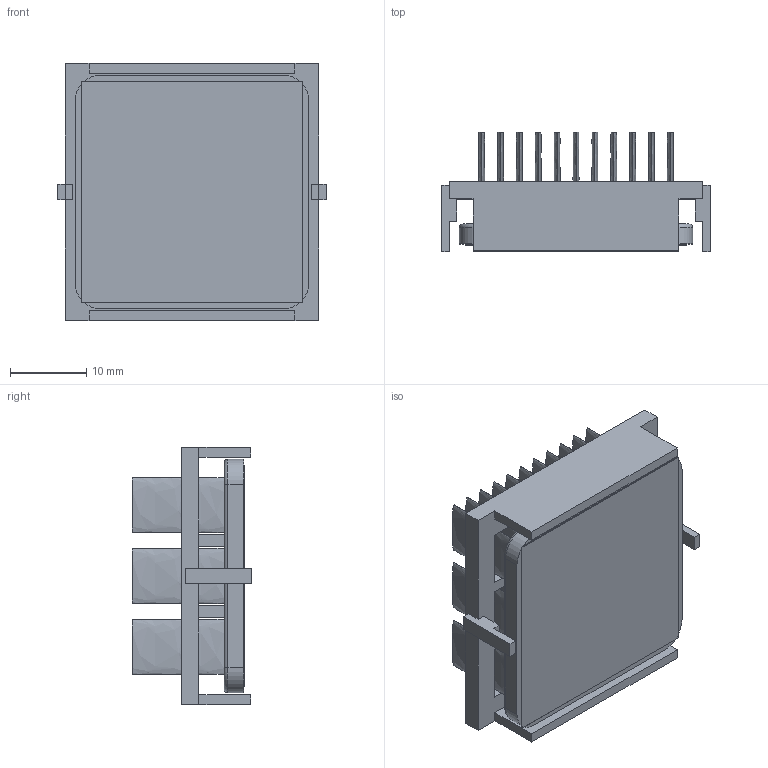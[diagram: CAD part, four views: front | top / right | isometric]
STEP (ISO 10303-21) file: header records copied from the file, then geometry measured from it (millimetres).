
FILE_DESCRIPTION (( 'STEP AP214' ), '1' );
FILE_NAME ('INM31001-15W-2.6O.STEP', '2023-02-18T00:59:53', ( '' ), ( '' ), 'SwSTEP 2.0', 'SolidWorks 2020', '' );
FILE_SCHEMA (( 'AUTOMOTIVE_DESIGN' ));
Length unit declared in the file: inch
Products named in the file (1): INM31001-15W-2.6O
Bounding box: 35.2 x 15.6 x 33.7 mm (x, y, z)
Volume: 5932 mm3; surface area: 12208.4 mm2
Topology: 3 solids, 3 shells, 181 faces, 418 edges, 276 vertices
Faces by surface type: plane 103, bspline 66, cylinder 8, torus 4
Entity records: 7645 total; most frequent: CARTESIAN_POINT 1734, ORIENTED_EDGE 836, DIRECTION 538, EDGE_CURVE 418, VERTEX_POINT 276, LINE 266, VECTOR 266, EDGE_LOOP 216
